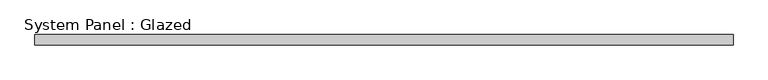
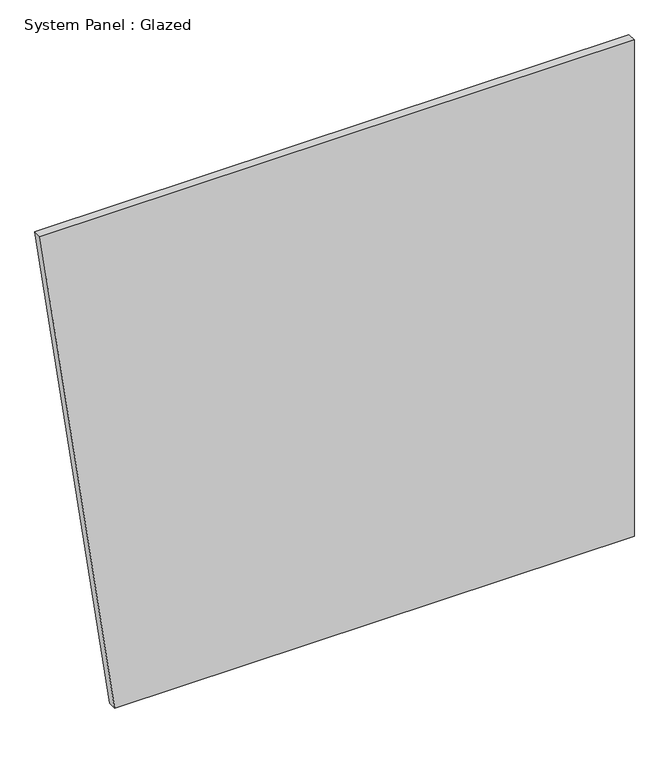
"""IFC4 building model written with IfcOpenShell, lengths in millimetres: plate geometry, System Panel : Glazed."""

from ifc_helpers import new_model, si_unit, frame, origin, place, context, project, spatial, polyline, outline, extrude, source, transform, mapped, element, save


def system_panel_glazed_7408eea8(model_context):
    return source(origin(), model_context, "Body", "SweptSolid", [
        extrude(outline(polyline([(0.0, -646.4535512), (0.0, 863.4989063), (1524.0, 863.4989063), (1524.0, -863.4989063), (0.0, -646.4535512)])), frame((0.0, 19.05, 0.0), z_axis=(0.0, 1.0, 0.0), x_axis=(0.0, 0.0, 1.0)), (0.0, 0.0, 1.0), 25.4),
    ])


if __name__ == "__main__":
    model = new_model("IFC4")
    model_context = context("Model", 3, world=origin())
    ifc_project = project(units=[si_unit("LENGTHUNIT", "METRE", prefix="MILLI")], contexts=[model_context])
    site = spatial("IfcSite", under=ifc_project)
    building = spatial("IfcBuilding", under=site)
    placement = place(None, origin())
    system_panel_glazed_shape = system_panel_glazed_7408eea8(model_context)
    element("IfcPlate", 1, ObjectType="System Panel : Glazed", at=placement, inside=building, context=model_context, shape_type="MappedRepresentation", body=[
        mapped(system_panel_glazed_shape, transform((0.0, 0.0, 0.0), x_axis=(1.0, 0.0, 0.0), y_axis=(0.0, 1.0, 0.0), z_axis=(0.0, 0.0, 1.0))),
    ])
    save(model, "model.ifc")
